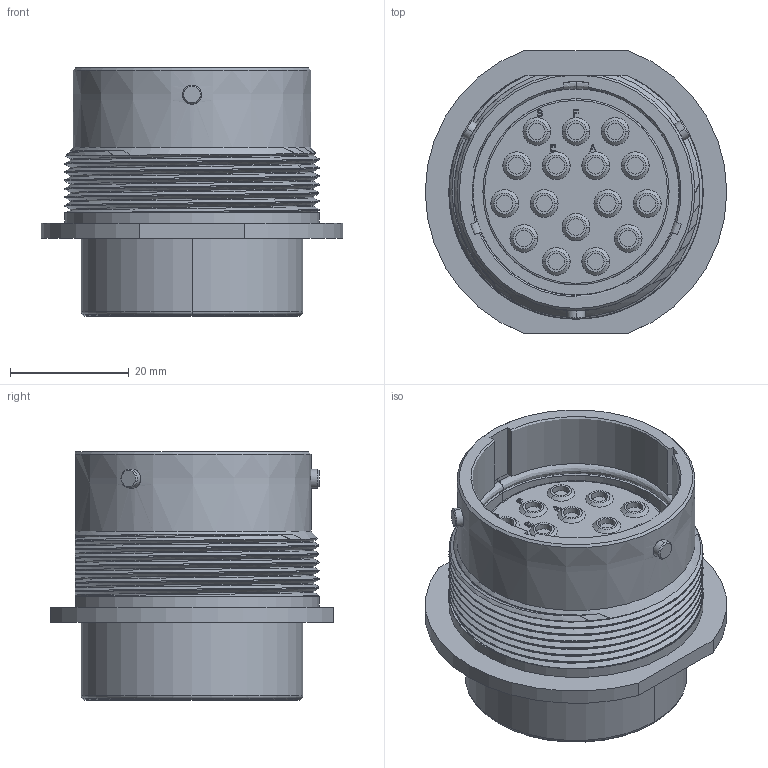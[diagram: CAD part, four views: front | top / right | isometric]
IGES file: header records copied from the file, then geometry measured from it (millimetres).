
Start section:  PTC IGES file: c-hd34-24-16pe-99-3d.igs
Global section: file name: c-hd34-24-16pe-99-3d.igs; native system: Pro/ENGINEER by Parametric Technology Corporation; preprocessor: 2010430; author: workeradm; organization: Unknown; units: millimetre
Bounding box: 50.8 x 47.62 x 41.83 mm (x, y, z)
Surface area: 13149.2 mm2 (no closed solid volume)
Topology: 0 solids, 0 shells, 477 faces, 2180 edges, 2180 vertices
Faces by surface type: revolution 260, bspline 217
